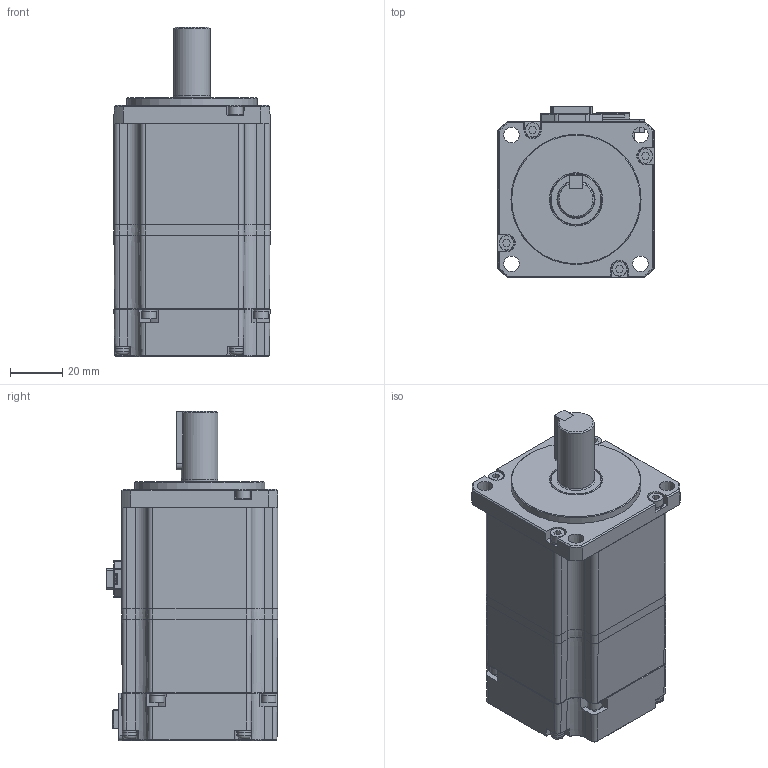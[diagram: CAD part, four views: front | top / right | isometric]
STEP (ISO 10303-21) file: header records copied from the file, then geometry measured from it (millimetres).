
FILE_DESCRIPTION (( 'STEP AP214' ), '1' );
FILE_NAME ('EM06GA002G02_Out Line(APM-EB02AM3K2).STEP', '2022-11-03T08:09:50', ( '' ), ( '' ), 'SwSTEP 2.0', 'SolidWorks 2021', '' );
FILE_SCHEMA (( 'AUTOMOTIVE_DESIGN' ));
Length unit declared in the file: millimetre
Products named in the file (1): EM06GA002G02_Out Line(APM-EB02AM3K2)
Bounding box: 60 x 65.9 x 126.5 mm (x, y, z)
Volume: 319334.1 mm3; surface area: 69491.4 mm2
Topology: 35 solids, 35 shells, 1566 faces, 3934 edges, 2505 vertices
Faces by surface type: plane 1125, cylinder 239, cone 139, torus 31, bspline 18, sphere 14
Full cylindrical faces by diameter (mm): 1.6 x10, 2 x2, 2.1 x2, 2.5 x16, 3 x16, 3.1 x8, 3.5 x4, 5.4 x8, 5.5 x8, 5.6 x8, 14 x1, 19.8 x1, 20.5 x1, 50 x1
Entity records: 63641 total; most frequent: CARTESIAN_POINT 9449, ORIENTED_EDGE 7480, DIRECTION 7243, EDGE_CURVE 3740, VECTOR 2773, LINE 2773, VERTEX_POINT 2454, AXIS2_PLACEMENT_3D 2235
